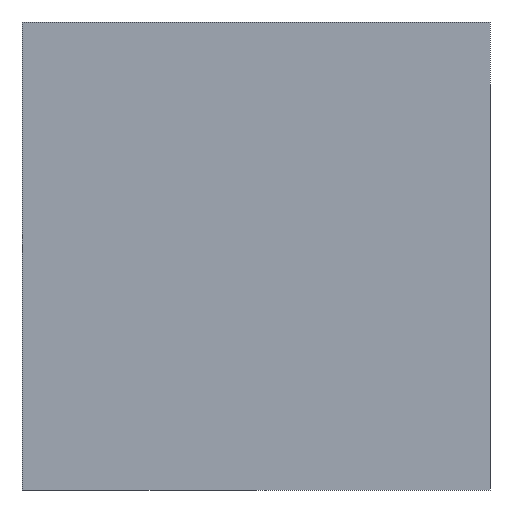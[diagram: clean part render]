
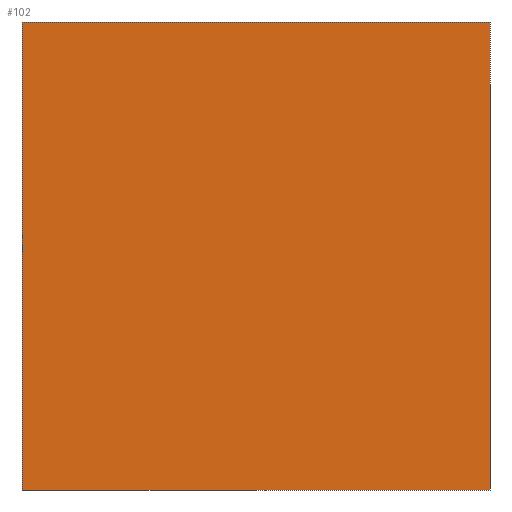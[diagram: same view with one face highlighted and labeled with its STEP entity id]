
A CAD part, left-side view. The second image highlights one B-rep face of the part: STEP entity #102.
In plain terms, the highlighted planar face has unit normal (-1, 0, 0).
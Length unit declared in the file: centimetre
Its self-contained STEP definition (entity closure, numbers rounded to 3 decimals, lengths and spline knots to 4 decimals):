
#24 = VERTEX_POINT ( 'NONE', #293 ) ;
#30 = EDGE_CURVE ( 'NONE', #87, #161, #142, .T. ) ;
#47 = LINE ( 'NONE', #241, #92 ) ;
#55 = VERTEX_POINT ( 'NONE', #303 ) ;
#75 = LINE ( 'NONE', #409, #134 ) ;
#79 = FACE_OUTER_BOUND ( 'NONE', #452, .T. ) ;
#87 = VERTEX_POINT ( 'NONE', #224 ) ;
#92 = VECTOR ( 'NONE', #267, 100. ) ;
#102 = ADVANCED_FACE ( 'NONE', ( #79 ), #478, .F. ) ;
#114 = DIRECTION ( 'NONE',  ( 0., 0., -1. ) ) ;
#132 = ORIENTED_EDGE ( 'NONE', *, *, #401, .F. ) ;
#134 = VECTOR ( 'NONE', #343, 100. ) ;
#142 = LINE ( 'NONE', #153, #402 ) ;
#148 = VECTOR ( 'NONE', #304, 100. ) ;
#153 = CARTESIAN_POINT ( 'NONE',  ( 0., 1000., 1000. ) ) ;
#155 = CARTESIAN_POINT ( 'NONE',  ( 0., 1000., 1000. ) ) ;
#161 = VERTEX_POINT ( 'NONE', #295 ) ;
#188 = LINE ( 'NONE', #155, #148 ) ;
#224 = CARTESIAN_POINT ( 'NONE',  ( 0., 1000., 1000. ) ) ;
#234 = CARTESIAN_POINT ( 'NONE',  ( 0., 1000., 1000. ) ) ;
#236 = AXIS2_PLACEMENT_3D ( 'NONE', #234, #380, #475 ) ;
#241 = CARTESIAN_POINT ( 'NONE',  ( 0., 0., 1000. ) ) ;
#244 = ORIENTED_EDGE ( 'NONE', *, *, #317, .T. ) ;
#267 = DIRECTION ( 'NONE',  ( 0., 0., -1. ) ) ;
#293 = CARTESIAN_POINT ( 'NONE',  ( 0., 0., 0. ) ) ;
#295 = CARTESIAN_POINT ( 'NONE',  ( 0., 1000., 0. ) ) ;
#303 = CARTESIAN_POINT ( 'NONE',  ( 0., 0., 1000. ) ) ;
#304 = DIRECTION ( 'NONE',  ( 0., -1., 0. ) ) ;
#316 = ORIENTED_EDGE ( 'NONE', *, *, #30, .T. ) ;
#317 = EDGE_CURVE ( 'NONE', #161, #24, #75, .T. ) ;
#343 = DIRECTION ( 'NONE',  ( 0., -1., 0. ) ) ;
#363 = EDGE_CURVE ( 'NONE', #87, #55, #188, .T. ) ;
#380 = DIRECTION ( 'NONE',  ( 1., 0., 0. ) ) ;
#401 = EDGE_CURVE ( 'NONE', #55, #24, #47, .T. ) ;
#402 = VECTOR ( 'NONE', #114, 100. ) ;
#409 = CARTESIAN_POINT ( 'NONE',  ( 0., 1000., 0. ) ) ;
#452 = EDGE_LOOP ( 'NONE', ( #244, #132, #463, #316 ) ) ;
#463 = ORIENTED_EDGE ( 'NONE', *, *, #363, .F. ) ;
#475 = DIRECTION ( 'NONE',  ( 0., 0., -1. ) ) ;
#478 = PLANE ( 'NONE',  #236 ) ;
